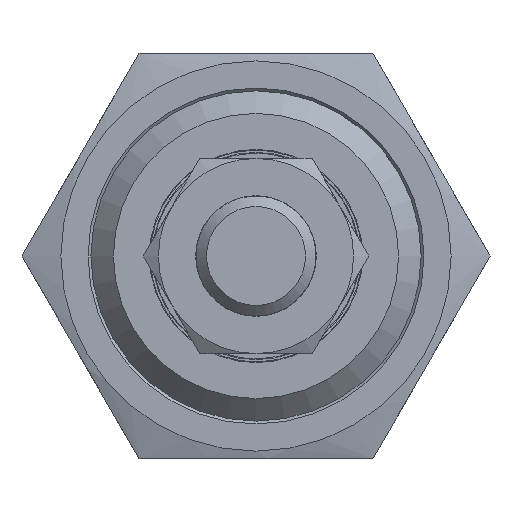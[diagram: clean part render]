
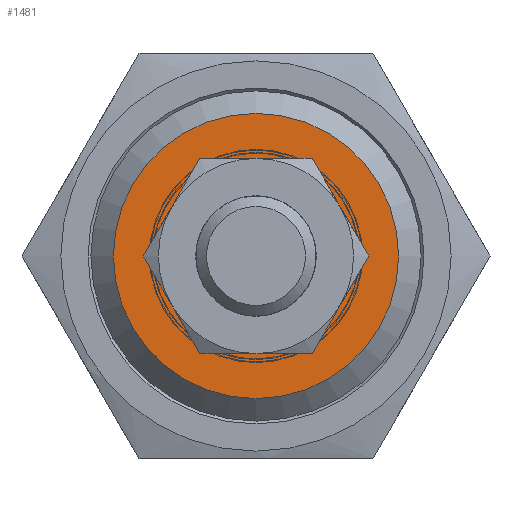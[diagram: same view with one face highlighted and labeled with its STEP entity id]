
A CAD part, front view. The second image highlights one B-rep face of the part: STEP entity #1481.
In plain terms, the highlighted planar face has unit normal (0, -1, 0).
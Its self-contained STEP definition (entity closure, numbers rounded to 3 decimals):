
#218=PLANE('',#2500);
#377=ORIENTED_EDGE('',*,*,#653,.T.);
#378=ORIENTED_EDGE('',*,*,#654,.F.);
#653=EDGE_CURVE('',#815,#815,#943,.T.);
#654=EDGE_CURVE('',#816,#816,#944,.T.);
#815=VERTEX_POINT('',#3298);
#816=VERTEX_POINT('',#3300);
#943=CIRCLE('',#2501,9.5);
#944=CIRCLE('',#2502,6.35);
#1089=EDGE_LOOP('',(#377));
#1090=EDGE_LOOP('',(#378));
#1293=FACE_BOUND('',#1089,.T.);
#1294=FACE_BOUND('',#1090,.T.);
#1481=ADVANCED_FACE('',(#1293,#1294),#218,.T.);
#2500=AXIS2_PLACEMENT_3D('',#3296,#2857,#2858);
#2501=AXIS2_PLACEMENT_3D('',#3297,#2859,#2860);
#2502=AXIS2_PLACEMENT_3D('',#3299,#2861,#2862);
#2857=DIRECTION('',(0.,-1.,0.));
#2858=DIRECTION('',(0.,0.,-1.));
#2859=DIRECTION('',(0.,-1.,0.));
#2860=DIRECTION('',(0.,0.,-1.));
#2861=DIRECTION('',(0.,-1.,0.));
#2862=DIRECTION('',(0.,0.,-1.));
#3296=CARTESIAN_POINT('',(0.,-76.25,5.5));
#3297=CARTESIAN_POINT('',(0.,-76.25,0.));
#3298=CARTESIAN_POINT('',(0.,-76.25,-9.5));
#3299=CARTESIAN_POINT('',(0.,-76.25,0.));
#3300=CARTESIAN_POINT('',(0.,-76.25,-6.35));
